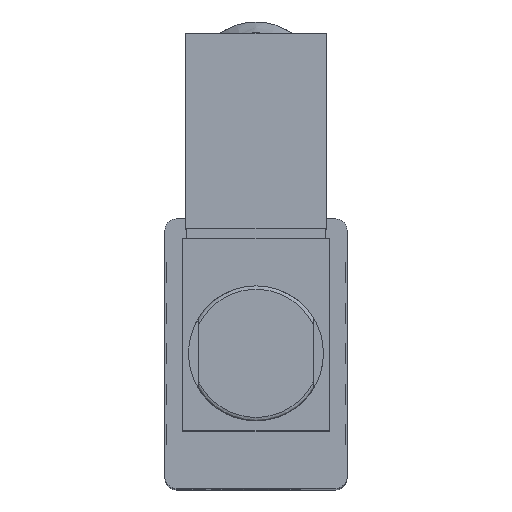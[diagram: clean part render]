
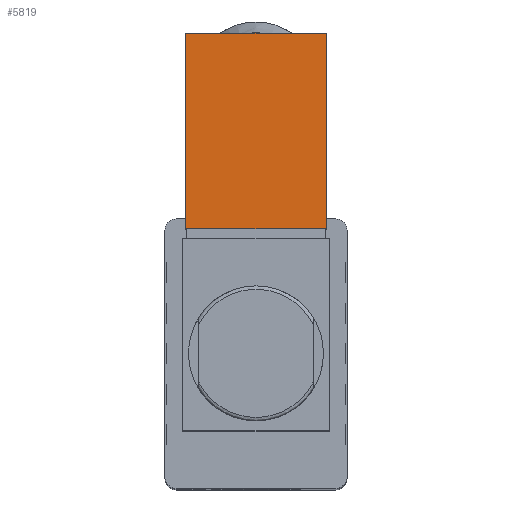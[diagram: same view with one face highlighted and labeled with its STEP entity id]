
A CAD part, top view. The second image highlights one B-rep face of the part: STEP entity #5819.
In plain terms, the highlighted planar face has unit normal (0, 0, 1).
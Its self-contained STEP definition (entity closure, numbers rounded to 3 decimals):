
#643=LINE('',#9398,#1248);
#645=LINE('',#9402,#1250);
#647=LINE('',#9406,#1252);
#648=LINE('',#9407,#1253);
#1248=VECTOR('',#7722,1000.);
#1250=VECTOR('',#7726,1000.);
#1252=VECTOR('',#7730,1000.);
#1253=VECTOR('',#7731,1000.);
#1632=FACE_OUTER_BOUND('',#1965,.T.);
#1965=EDGE_LOOP('',(#4844,#4845,#4846,#4847));
#2615=VERTEX_POINT('',#9395);
#2616=VERTEX_POINT('',#9397);
#2617=VERTEX_POINT('',#9401);
#2618=VERTEX_POINT('',#9405);
#3367=EDGE_CURVE('',#2616,#2615,#643,.T.);
#3369=EDGE_CURVE('',#2617,#2616,#645,.T.);
#3371=EDGE_CURVE('',#2618,#2615,#647,.T.);
#3372=EDGE_CURVE('',#2617,#2618,#648,.T.);
#4844=ORIENTED_EDGE('',*,*,#3367,.T.);
#4845=ORIENTED_EDGE('',*,*,#3371,.F.);
#4846=ORIENTED_EDGE('',*,*,#3372,.F.);
#4847=ORIENTED_EDGE('',*,*,#3369,.T.);
#5213=PLANE('',#6285);
#5819=ADVANCED_FACE('',(#1632),#5213,.F.);
#6285=AXIS2_PLACEMENT_3D('',#9404,#7728,#7729);
#7722=DIRECTION('',(1.,0.,0.));
#7726=DIRECTION('',(0.,-1.,0.));
#7728=DIRECTION('center_axis',(0.,0.,-1.));
#7729=DIRECTION('ref_axis',(-1.,0.,0.));
#7730=DIRECTION('',(0.,-1.,0.));
#7731=DIRECTION('',(1.,0.,0.));
#9395=CARTESIAN_POINT('',(10.4,38.5,183.2));
#9397=CARTESIAN_POINT('',(-10.4,38.5,183.2));
#9398=CARTESIAN_POINT('',(-10.4,38.5,183.2));
#9401=CARTESIAN_POINT('',(-10.4,67.5,183.2));
#9402=CARTESIAN_POINT('',(-10.4,67.5,183.2));
#9404=CARTESIAN_POINT('Origin',(-10.4,67.5,183.2));
#9405=CARTESIAN_POINT('',(10.4,67.5,183.2));
#9406=CARTESIAN_POINT('',(10.4,67.5,183.2));
#9407=CARTESIAN_POINT('',(-10.4,67.5,183.2));
